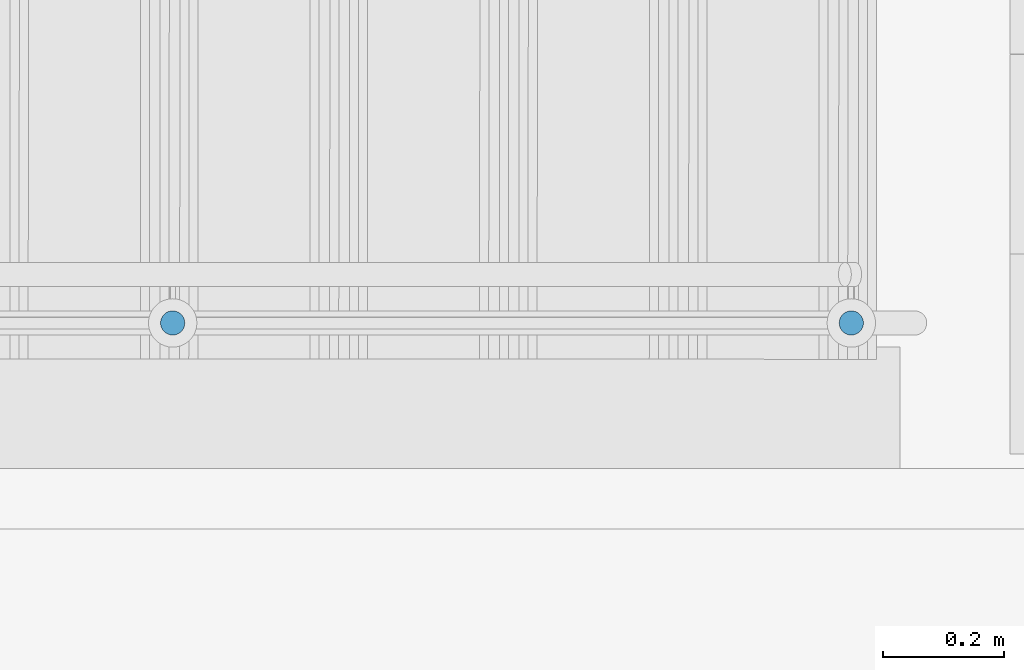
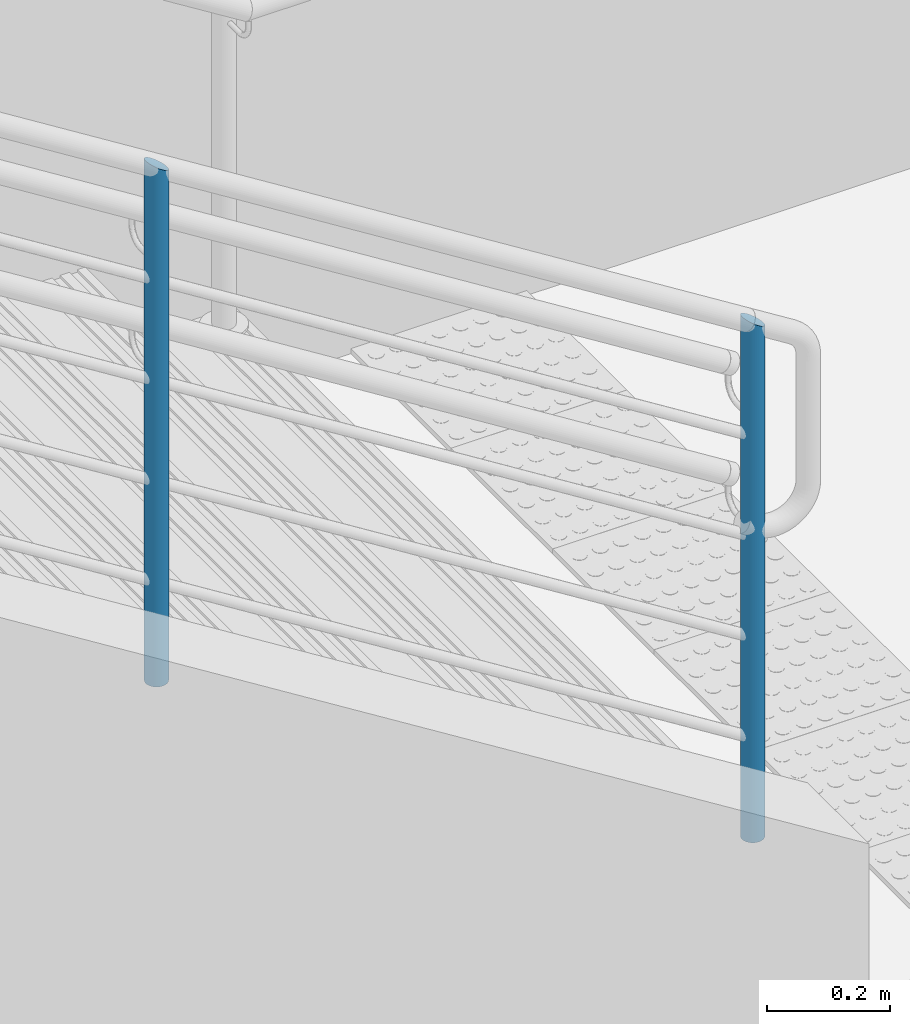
# One storey, part 83 of 237: 2 building element parts, 1 element without a shape of its own.
"""IFC2X3 building model written with IfcOpenShell, lengths in millimetres."""

from ifc_helpers import new_model, entity, si_unit, converted_unit, derived_unit, money_unit, direction, frame, origin_with_axes, place, context, subcontext, project, spatial, faceted_brep, material, type_object, element, aggregate, save


model = new_model("IFC2X3")

# Units and contexts
model_context = context("Model", 3, precision=0.01, world=origin_with_axes(), true_north=direction((0.0, 1.0)))
body_context = subcontext(model_context, "Body", "Model", "MODEL_VIEW")
ifc_project = project(units=[si_unit("LENGTHUNIT", "METRE", prefix="MILLI"), si_unit("AREAUNIT", "SQUARE_METRE"), si_unit("VOLUMEUNIT", "CUBIC_METRE"), converted_unit("PLANEANGLEUNIT", "DEGREE", entity("IfcPlaneAngleMeasure", 0.0174532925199), si_unit("PLANEANGLEUNIT", "RADIAN"), dimensions=[0, 0, 0, 0, 0, 0, 0]), money_unit("USD"), converted_unit("TIMEUNIT", "Year", entity("IfcTimeMeasure", 31556926.0), si_unit("TIMEUNIT", "SECOND"), dimensions=[0, 0, 1, 0, 0, 0, 0]), si_unit("MASSUNIT", "GRAM", prefix="KILO"), si_unit("THERMODYNAMICTEMPERATUREUNIT", "DEGREE_CELSIUS"), si_unit("LUMINOUSINTENSITYUNIT", "LUMEN"), si_unit("ENERGYUNIT", "JOULE", prefix="MEGA"), derived_unit("THERMALCONDUCTANCEUNIT", [(si_unit("POWERUNIT", "WATT"), 1), (si_unit("LENGTHUNIT", "METRE"), -1), (si_unit("THERMODYNAMICTEMPERATUREUNIT", "KELVIN"), -1)]), derived_unit("SPECIFICHEATCAPACITYUNIT", [(si_unit("ENERGYUNIT", "JOULE"), 1), (si_unit("MASSUNIT", "GRAM", prefix="KILO"), -1), (si_unit("THERMODYNAMICTEMPERATUREUNIT", "KELVIN"), -1)]), derived_unit("MASSDENSITYUNIT", [(si_unit("MASSUNIT", "GRAM", prefix="KILO"), 1), (si_unit("VOLUMEUNIT", "CUBIC_METRE"), -1)])], contexts=[model_context])

# Site, building, storey
site_placement = place(None, origin_with_axes())
site = spatial("IfcSite", under=ifc_project, at=site_placement, Name="Local", CompositionType="ELEMENT")
building_placement = place(site_placement, origin_with_axes())
building = spatial("IfcBuilding", under=site, at=building_placement, Name="Construção", CompositionType="ELEMENT")
storey_placement = place(building_placement, origin_with_axes())
storey = spatial("IfcBuildingStorey", under=building, at=storey_placement, Name="Pavimento Térreo", CompositionType="ELEMENT", Elevation=0.0)

# Railing, building element parts
railing_type = type_object("IfcRailingType", Name="Tipo de Guarda-Corpo", PredefinedType="NOTDEFINED")
railing_placement = place(storey_placement, frame((104000.0, 14000.0, -7099.22292764), z_axis=(0.0, 0.0, 1.0), x_axis=(1.0, 0.0, 0.0)))
railing = element("IfcRailing", 1, at=railing_placement, inside=storey, type_object=railing_type, Name="Guarda-Corpo - 001", PredefinedType="NOTDEFINED")
ifc_material = material(Name="Aço - Inoxidável")
building_element_part_1_placement = place(railing_placement, origin_with_axes())
building_element_part_1 = element("IfcBuildingElementPart", 2, at=building_element_part_1_placement, material=ifc_material, Name="Aço - Inoxidável", context=body_context, shape_type="Brep", body=[
    faceted_brep([(-419.665640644, 18671.7250979, 30.0553832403), (-416.192677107, 18671.4212528, 30.0553832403), (-416.192677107, 18671.4212528, 1055.05538324), (-419.665640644, 18671.7250979, 1057.23079406), (-412.719713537, 18671.7250975, 30.0553832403), (-423.033079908, 18672.6274007, 30.0553832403), (-426.192676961, 18674.1007452, 30.0553832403), (-429.048429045, 18676.1003646, 30.0553832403), (-431.513565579, 18678.5655014, 30.0553832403), (-433.513184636, 18681.4212537, 30.0553832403), (-434.986528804, 18684.5808509, 30.0553832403), (-435.888831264, 18687.9482903, 30.0553832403), (-436.192676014, 18691.4212539, 30.0553832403), (-435.888830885, 18694.8942174, 30.0553832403), (-434.986528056, 18698.2616567, 30.0553832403), (-433.513183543, 18701.4212537, 30.0553832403), (-431.513564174, 18704.2770058, 30.0553832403), (-429.04842737, 18706.7421423, 30.0553832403), (-426.192675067, 18708.7417614, 30.0553832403), (-423.033077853, 18710.2151056, 30.0553832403), (-419.665638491, 18711.117408, 30.0553832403), (-416.192674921, 18711.4212528, 30.0553832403), (-412.719711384, 18711.1174076, 30.0553832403), (-409.35227212, 18710.2151048, 30.0553832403), (-406.192675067, 18708.7417603, 30.0553832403), (-403.336922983, 18706.7421409, 30.0553832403), (-400.871786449, 18704.2770041, 30.0553832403), (-398.872167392, 18701.4212518, 30.0553832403), (-397.398823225, 18698.2616546, 30.0553832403), (-396.496520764, 18694.8942153, 30.0553832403), (-396.192676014, 18691.4212517, 30.0553832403), (-396.496521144, 18687.9482881, 30.0553832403), (-397.398823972, 18684.5808489, 30.0553832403), (-398.872168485, 18681.4212518, 30.0553832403), (-400.871787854, 18678.5654997, 30.0553832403), (-403.336924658, 18676.1003632, 30.0553832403), (-406.192676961, 18674.1007442, 30.0553832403), (-409.352274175, 18672.6274, 30.0553832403), (-412.719713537, 18671.7250975, 1052.87997242), (-435.888830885, 18694.8942174, 1067.39275108), (-436.192676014, 18691.4212539, 1067.58307486), (-435.888831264, 18687.9482903, 1067.39275108), (-434.986528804, 18684.5808509, 1066.82756261), (-433.513184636, 18681.4212537, 1065.90468243), (-431.513565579, 18678.5655014, 1064.65215179), (-429.048429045, 18676.1003646, 1063.10802819), (-426.192676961, 18674.1007452, 1061.31922905), (-423.033079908, 18672.6274007, 1059.34010612), (-409.352274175, 18672.6274, 1050.77066036), (-406.192676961, 18674.1007442, 1048.79153743), (-403.336924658, 18676.1003632, 1047.00273829), (-400.871787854, 18678.5654997, 1045.45861469), (-398.872168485, 18681.4212518, 1044.20608405), (-397.398823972, 18684.5808489, 1043.28320387), (-396.496521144, 18687.9482881, 1042.71801541), (-396.192676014, 18691.4212517, 1042.52769162), (-396.496520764, 18694.8942153, 1042.71801541), (-397.398823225, 18698.2616546, 1043.28320387), (-398.872167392, 18701.4212518, 1044.20608405), (-400.871786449, 18704.2770041, 1045.45861469), (-403.336922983, 18706.7421409, 1047.00273829), (-406.192675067, 18708.7417603, 1048.79153743), (-409.35227212, 18710.2151048, 1050.77066036), (-412.719711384, 18711.1174076, 1052.87997242), (-416.192674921, 18711.4212528, 1055.05538324), (-419.665638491, 18711.117408, 1057.23079406), (-423.033077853, 18710.2151056, 1059.34010612), (-426.192675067, 18708.7417614, 1061.31922905), (-429.04842737, 18706.7421423, 1063.10802819), (-431.513564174, 18704.2770058, 1064.65215179), (-433.513183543, 18701.4212537, 1065.90468243), (-434.986528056, 18698.2616567, 1066.82756261)], [[[0, 1, 2, 3]], [[4, 1, 0, 5, 6, 7, 8, 9, 10, 11, 12, 13, 14, 15, 16, 17, 18, 19, 20, 21, 22, 23, 24, 25, 26, 27, 28, 29, 30, 31, 32, 33, 34, 35, 36, 37]], [[1, 4, 38, 2]], [[39, 40, 41, 42, 43, 44, 45, 46, 47, 3, 2, 38, 48, 49, 50, 51, 52, 53, 54, 55, 56, 57, 58, 59, 60, 61, 62, 63, 64, 65, 66, 67, 68, 69, 70, 71]], [[5, 0, 3, 47]], [[6, 5, 47, 46]], [[7, 6, 46, 45]], [[8, 7, 45, 44]], [[9, 8, 44, 43]], [[10, 9, 43, 42]], [[11, 10, 42, 41]], [[12, 11, 41, 40]], [[13, 12, 40, 39]], [[14, 13, 39, 71]], [[15, 14, 71, 70]], [[16, 15, 70, 69]], [[17, 16, 69, 68]], [[18, 17, 68, 67]], [[19, 18, 67, 66]], [[20, 19, 66, 65]], [[21, 20, 65, 64]], [[22, 21, 64, 63]], [[23, 22, 63, 62]], [[24, 23, 62, 61]], [[25, 24, 61, 60]], [[26, 25, 60, 59]], [[27, 26, 59, 58]], [[28, 27, 58, 57]], [[29, 28, 57, 56]], [[30, 29, 56, 55]], [[31, 30, 55, 54]], [[32, 31, 54, 53]], [[33, 32, 53, 52]], [[34, 33, 52, 51]], [[35, 34, 51, 50]], [[36, 35, 50, 49]], [[37, 36, 49, 48]], [[4, 37, 48, 38]]]),
])
building_element_part_2_placement = place(railing_placement, origin_with_axes())
building_element_part_2 = element("IfcBuildingElementPart", 3, at=building_element_part_2_placement, material=ifc_material, Name="Aço - Inoxidável", context=body_context, shape_type="Brep", body=[
    faceted_brep([(-1539.64623053, 18671.7251591, 731.593955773), (-1536.17326699, 18671.421314, 731.593955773), (-1536.17326699, 18671.421314, 1756.59395577), (-1539.64623053, 18671.7251591, 1758.76936659), (-1532.70030342, 18671.7251587, 731.593955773), (-1543.01366979, 18672.6274619, 731.593955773), (-1546.17326685, 18674.1008065, 731.593955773), (-1549.02901893, 18676.1004258, 731.593955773), (-1551.49415546, 18678.5655626, 731.593955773), (-1553.49377452, 18681.4213149, 731.593955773), (-1554.96711869, 18684.5809122, 731.593955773), (-1555.86942115, 18687.9483515, 731.593955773), (-1556.1732659, 18691.4213151, 731.593955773), (-1555.86942077, 18694.8942786, 731.593955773), (-1554.96711794, 18698.2617179, 731.593955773), (-1553.49377343, 18701.4213149, 731.593955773), (-1551.49415406, 18704.277067, 731.593955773), (-1549.02901726, 18706.7422036, 731.593955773), (-1546.17326495, 18708.7418226, 731.593955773), (-1543.01366774, 18710.2151668, 731.593955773), (-1539.64622838, 18711.1174692, 731.593955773), (-1536.17326481, 18711.421314, 731.593955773), (-1532.70030127, 18711.1174689, 731.593955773), (-1529.33286201, 18710.215166, 731.593955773), (-1526.17326495, 18708.7418215, 731.593955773), (-1523.31751287, 18706.7422021, 731.593955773), (-1520.85237633, 18704.2770653, 731.593955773), (-1518.85275728, 18701.421313, 731.593955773), (-1517.37941311, 18698.2617158, 731.593955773), (-1516.47711065, 18694.8942765, 731.593955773), (-1516.1732659, 18691.4213129, 731.593955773), (-1516.47711103, 18687.9483494, 731.593955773), (-1517.37941386, 18684.5809101, 731.593955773), (-1518.85275837, 18681.421313, 731.593955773), (-1520.85237774, 18678.565561, 731.593955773), (-1523.31751454, 18676.1004244, 731.593955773), (-1526.17326685, 18674.1008054, 731.593955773), (-1529.33286406, 18672.6274612, 731.593955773), (-1532.70030342, 18671.7251587, 1754.41854495), (-1555.86942077, 18694.8942786, 1768.93132361), (-1556.1732659, 18691.4213151, 1769.12164739), (-1555.86942115, 18687.9483515, 1768.93132361), (-1554.96711869, 18684.5809122, 1768.36613514), (-1553.49377452, 18681.4213149, 1767.44325497), (-1551.49415546, 18678.5655626, 1766.19072432), (-1549.02901893, 18676.1004258, 1764.64660072), (-1546.17326685, 18674.1008065, 1762.85780158), (-1543.01366979, 18672.6274619, 1760.87867866), (-1529.33286406, 18672.6274612, 1752.30923289), (-1526.17326685, 18674.1008054, 1750.33010996), (-1523.31751454, 18676.1004244, 1748.54131082), (-1520.85237774, 18678.565561, 1746.99718722), (-1518.85275837, 18681.421313, 1745.74465658), (-1517.37941386, 18684.5809101, 1744.8217764), (-1516.47711103, 18687.9483494, 1744.25658794), (-1516.1732659, 18691.4213129, 1744.06626415), (-1516.47711065, 18694.8942765, 1744.25658794), (-1517.37941311, 18698.2617158, 1744.8217764), (-1518.85275728, 18701.421313, 1745.74465658), (-1520.85237633, 18704.2770653, 1746.99718722), (-1523.31751287, 18706.7422021, 1748.54131082), (-1526.17326495, 18708.7418215, 1750.33010996), (-1529.33286201, 18710.215166, 1752.30923289), (-1532.70030127, 18711.1174689, 1754.41854495), (-1536.17326481, 18711.421314, 1756.59395577), (-1539.64622838, 18711.1174692, 1758.76936659), (-1543.01366774, 18710.2151668, 1760.87867866), (-1546.17326495, 18708.7418226, 1762.85780158), (-1549.02901726, 18706.7422036, 1764.64660072), (-1551.49415406, 18704.277067, 1766.19072432), (-1553.49377343, 18701.4213149, 1767.44325497), (-1554.96711794, 18698.2617179, 1768.36613514)], [[[0, 1, 2, 3]], [[4, 1, 0, 5, 6, 7, 8, 9, 10, 11, 12, 13, 14, 15, 16, 17, 18, 19, 20, 21, 22, 23, 24, 25, 26, 27, 28, 29, 30, 31, 32, 33, 34, 35, 36, 37]], [[1, 4, 38, 2]], [[39, 40, 41, 42, 43, 44, 45, 46, 47, 3, 2, 38, 48, 49, 50, 51, 52, 53, 54, 55, 56, 57, 58, 59, 60, 61, 62, 63, 64, 65, 66, 67, 68, 69, 70, 71]], [[5, 0, 3, 47]], [[6, 5, 47, 46]], [[7, 6, 46, 45]], [[8, 7, 45, 44]], [[9, 8, 44, 43]], [[10, 9, 43, 42]], [[11, 10, 42, 41]], [[12, 11, 41, 40]], [[13, 12, 40, 39]], [[14, 13, 39, 71]], [[15, 14, 71, 70]], [[16, 15, 70, 69]], [[17, 16, 69, 68]], [[18, 17, 68, 67]], [[19, 18, 67, 66]], [[20, 19, 66, 65]], [[21, 20, 65, 64]], [[22, 21, 64, 63]], [[23, 22, 63, 62]], [[24, 23, 62, 61]], [[25, 24, 61, 60]], [[26, 25, 60, 59]], [[27, 26, 59, 58]], [[28, 27, 58, 57]], [[29, 28, 57, 56]], [[30, 29, 56, 55]], [[31, 30, 55, 54]], [[32, 31, 54, 53]], [[33, 32, 53, 52]], [[34, 33, 52, 51]], [[35, 34, 51, 50]], [[36, 35, 50, 49]], [[37, 36, 49, 48]], [[4, 37, 48, 38]]]),
])
aggregate(railing, [building_element_part_1, building_element_part_2])

save(model, "model.ifc")
